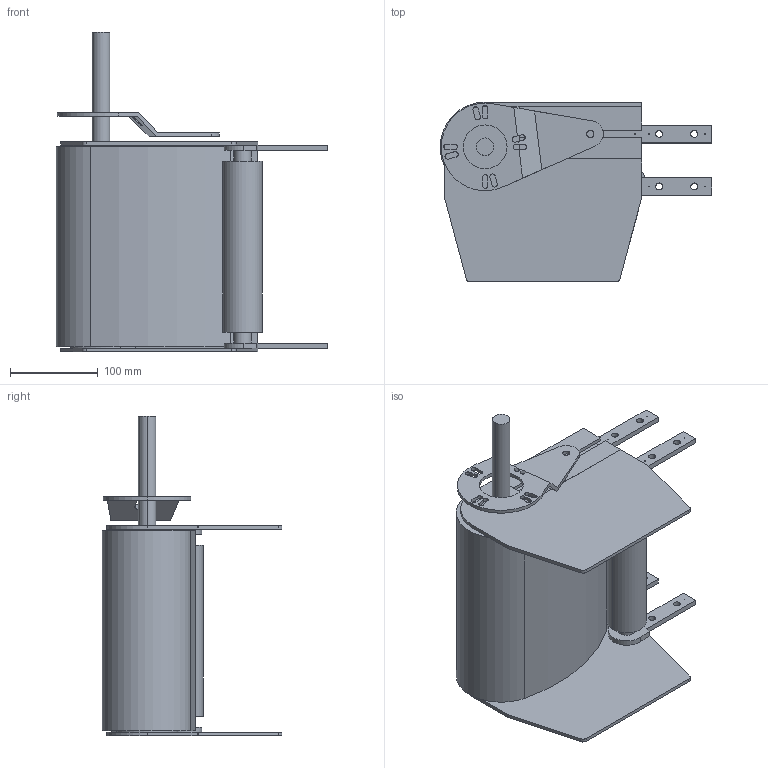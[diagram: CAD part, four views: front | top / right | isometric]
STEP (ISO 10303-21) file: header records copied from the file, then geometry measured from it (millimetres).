
FILE_DESCRIPTION (( 'STEP AP214' ), '1' );
FILE_NAME ('FS-240-MTS-100.ALU Left Drive section 20.STEP', '2017-02-08T09:37:01', ( '' ), ( '' ), 'SwSTEP 2.0', 'SolidWorks 2016', '' );
FILE_SCHEMA (( 'AUTOMOTIVE_DESIGN' ));
Length unit declared in the file: millimetre
Products named in the file (1): FS-240-MTS-100.ALU Left Drive section 20
Bounding box: 309.96 x 205 x 365 mm (x, y, z)
Volume: 2067777.1 mm3; surface area: 562312.8 mm2
Topology: 3 solids, 3 shells, 236 faces, 689 edges, 456 vertices
Faces by surface type: plane 131, cylinder 105
Entity records: 8039 total; most frequent: CARTESIAN_POINT 1394, ORIENTED_EDGE 1378, DIRECTION 1365, EDGE_CURVE 689, VECTOR 479, LINE 479, VERTEX_POINT 456, AXIS2_PLACEMENT_3D 443
